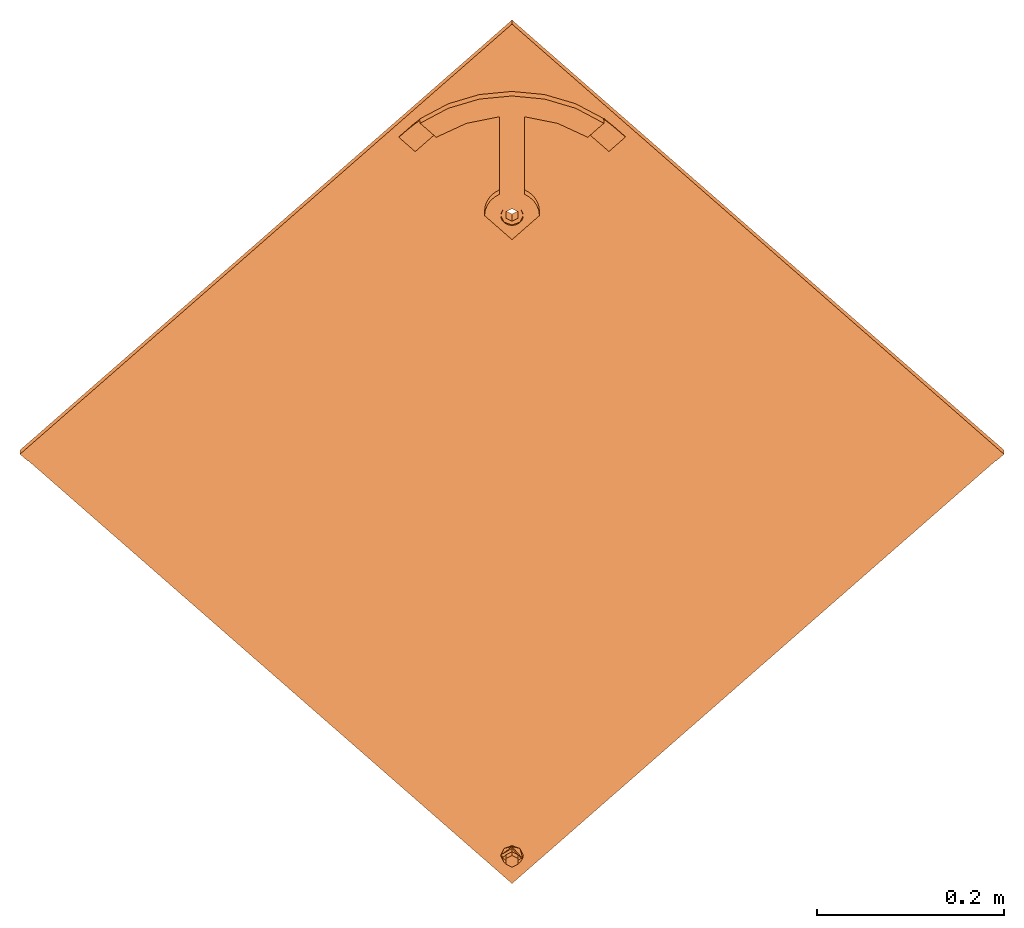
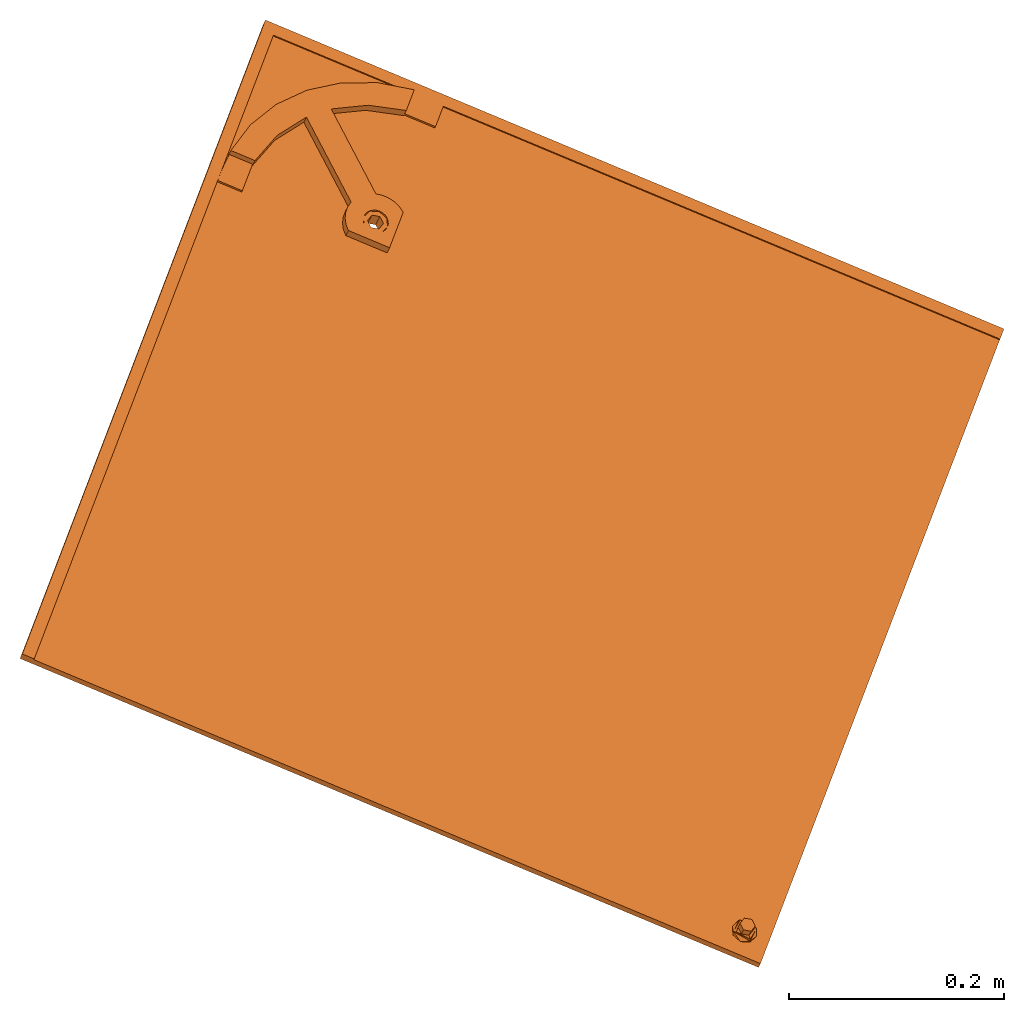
# One storey: 1 proxy.
"""IFC2X3 building model written with IfcOpenShell, lengths in millimetres."""

from ifc_helpers import new_model, entity, si_unit, converted_unit, derived_unit, direction, frame, origin, place, context, subcontext, project, spatial, faceted_brep, source, transform, mapped, material, material_list, type_object, type_shapes, element, save


model = new_model("IFC2X3")

# Units and contexts
model_context = context("Model", 3, precision=0.01, world=origin(), true_north=direction((6.12303176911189e-17, 1.0)))
body_context = subcontext(model_context, "Body", "Model", "MODEL_VIEW")
ifc_project = project(units=[si_unit("LENGTHUNIT", "METRE", prefix="MILLI"), si_unit("AREAUNIT", "SQUARE_METRE"), si_unit("VOLUMEUNIT", "CUBIC_METRE"), converted_unit("PLANEANGLEUNIT", "DEGREE", entity("IfcRatioMeasure", 0.0174532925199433), si_unit("PLANEANGLEUNIT", "RADIAN"), dimensions=[0, 0, 0, 0, 0, 0, 0]), si_unit("MASSUNIT", "GRAM", prefix="KILO"), derived_unit("MASSDENSITYUNIT", [(si_unit("MASSUNIT", "GRAM", prefix="KILO"), 1), (si_unit("LENGTHUNIT", "METRE"), -3)]), si_unit("TIMEUNIT", "SECOND"), si_unit("FREQUENCYUNIT", "HERTZ"), si_unit("THERMODYNAMICTEMPERATUREUNIT", "DEGREE_CELSIUS"), derived_unit("THERMALTRANSMITTANCEUNIT", [(si_unit("MASSUNIT", "GRAM", prefix="KILO"), 1), (si_unit("THERMODYNAMICTEMPERATUREUNIT", "KELVIN"), -1), (si_unit("TIMEUNIT", "SECOND"), -3)]), derived_unit("VOLUMETRICFLOWRATEUNIT", [(si_unit("LENGTHUNIT", "METRE"), 3), (si_unit("TIMEUNIT", "SECOND"), -1)]), si_unit("ELECTRICCURRENTUNIT", "AMPERE"), si_unit("ELECTRICVOLTAGEUNIT", "VOLT"), si_unit("POWERUNIT", "WATT"), si_unit("FORCEUNIT", "NEWTON", prefix="KILO"), si_unit("ILLUMINANCEUNIT", "LUX"), si_unit("LUMINOUSFLUXUNIT", "LUMEN"), si_unit("LUMINOUSINTENSITYUNIT", "CANDELA"), derived_unit("USERDEFINED", [(si_unit("MASSUNIT", "GRAM", prefix="KILO"), -1), (si_unit("LENGTHUNIT", "METRE"), -2), (si_unit("TIMEUNIT", "SECOND"), 3), (si_unit("LUMINOUSFLUXUNIT", "LUMEN"), 1)]), derived_unit("LINEARVELOCITYUNIT", [(si_unit("LENGTHUNIT", "METRE"), 1), (si_unit("TIMEUNIT", "SECOND"), -1)]), si_unit("PRESSUREUNIT", "PASCAL"), derived_unit("USERDEFINED", [(si_unit("LENGTHUNIT", "METRE"), -2), (si_unit("MASSUNIT", "GRAM", prefix="KILO"), 1), (si_unit("TIMEUNIT", "SECOND"), -2)])], contexts=[model_context])

# Site, building, storey
site_placement = place(None, origin())
site = spatial("IfcSite", under=ifc_project, at=site_placement, Name="Default", CompositionType="ELEMENT")
building_placement = place(site_placement, origin())
building = spatial("IfcBuilding", under=site, at=building_placement, CompositionType="ELEMENT")
storey_placement = place(building_placement, frame((0.0, 0.0, 2687.5)))
storey = spatial("IfcBuildingStorey", under=building, at=storey_placement, Name="Level 2", CompositionType="ELEMENT", Elevation=2687.5)

# Proxy
ifc_material_1 = material(Name="Rubber - Sunstyle - Black")
ifc_material_2 = material(Name="Glass - Sunstyle - Tainted Silver")
ifc_material_list_1 = material_list([ifc_material_1, ifc_material_2])
ifc_material_list_2 = material_list([ifc_material_1, ifc_material_2])
building_element_proxy_type = type_object("IfcBuildingElementProxyType", Name="Non PV Shingle - Silver", PredefinedType="NOTDEFINED", material=ifc_material_list_2)
shared_shape = source(origin(), body_context, "Body", "Brep", [
    faceted_brep([(0.0, -485.159313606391, 4.00636906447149), (-5.77420283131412, -488.492583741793, 4.062193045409), (-5.77420283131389, -488.124274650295, 26.0540623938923), (0.0, -484.791004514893, 25.9982384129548), (-5.77420283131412, -495.159124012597, 4.17384100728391), (-5.7742028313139, -494.790814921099, 26.1657103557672), (0.0, -498.492394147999, 4.2296649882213), (0.0, -498.1240850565, 26.2215343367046), (5.77420283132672, -495.159124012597, 4.17384100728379), (5.77420283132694, -494.790814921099, 26.1657103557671), (5.77420283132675, -488.492583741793, 4.06219304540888), (5.77420283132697, -488.124274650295, 26.0540623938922), (-8.60370416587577, -500.060042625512, 26.2539568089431), (0.0, -503.623313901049, 26.3136327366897), (-12.1674751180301, -491.457544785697, 26.1098863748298), (-8.60370416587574, -482.855046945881, 25.9658159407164), (0.0, -479.291775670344, 25.9061400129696), (8.60370416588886, -482.855046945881, 25.9658159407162), (12.1674751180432, -491.457544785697, 26.1098863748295), (8.60370416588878, -500.060042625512, 26.2539568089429), (-11.3242446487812, -489.162467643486, 28.4227283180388), (-9.75647455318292, -491.386529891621, 30.3502110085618), (0.0, -484.073454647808, 30.9829114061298), (0.0, -482.832957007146, 30.4025647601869), (0.0, -480.675406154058, 29.3931896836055), (0.0, -503.067269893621, 27.5886907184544), (0.0, -502.123693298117, 29.7523951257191), (0.0, -498.67431759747, 31.227439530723), (0.0, -479.804811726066, 27.19910242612), (-6.32324569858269, -495.024101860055, 31.1663074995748), (-6.32324569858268, -487.723670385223, 31.0440434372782), (11.3242446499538, -493.673887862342, 28.4982833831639), (9.84888015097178, -492.460936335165, 30.2713428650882), (6.32324569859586, -487.723670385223, 31.0440434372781), (6.32324569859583, -495.024101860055, 31.1663074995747), (-6.32324569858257, -494.890073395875, 39.1691956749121), (0.0, -498.54028913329, 39.2303277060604), (0.0, -491.239857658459, 39.1080636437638), (-6.32324569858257, -487.589641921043, 39.0469316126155), (6.32324569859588, -494.890073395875, 39.169195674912), (6.32324569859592, -487.589641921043, 39.0469316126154), (0.0, -483.939426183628, 38.9857995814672), (0.0, -491.825853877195, 4.11801702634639)], [[[0, 1, 2, 3]], [[1, 4, 5, 2]], [[4, 6, 7, 5]], [[6, 8, 9, 7]], [[8, 10, 11, 9]], [[10, 0, 3, 11]], [[12, 7, 13]], [[7, 12, 5]], [[14, 5, 12]], [[5, 14, 2]], [[15, 2, 14]], [[3, 2, 15]], [[15, 16, 3]], [[16, 17, 3]], [[11, 3, 17]], [[11, 17, 18]], [[9, 11, 18]], [[18, 19, 9]], [[7, 9, 19]], [[19, 13, 7]], [[20, 14, 12]], [[21, 22, 23, 24]], [[24, 20, 21]], [[25, 20, 12]], [[26, 27, 21]], [[15, 14, 20]], [[12, 13, 25]], [[20, 28, 15]], [[28, 20, 24]], [[21, 27, 29]], [[21, 29, 30]], [[26, 21, 20]], [[20, 25, 26]], [[15, 28, 16]], [[21, 30, 22]], [[31, 18, 17]], [[28, 31, 17]], [[32, 27, 26]], [[26, 31, 32]], [[26, 25, 31]], [[25, 19, 31]], [[17, 16, 28]], [[31, 19, 18]], [[24, 31, 28]], [[33, 34, 32]], [[23, 22, 33]], [[24, 32, 31]], [[27, 32, 34]], [[32, 23, 33]], [[19, 25, 13]], [[32, 24, 23]], [[35, 36, 37]], [[37, 38, 35]], [[36, 39, 37]], [[40, 37, 39]], [[37, 40, 41]], [[37, 41, 38]], [[42, 6, 4]], [[4, 1, 42]], [[1, 0, 42]], [[42, 8, 6]], [[0, 10, 42]], [[8, 42, 10]], [[22, 30, 38, 41]], [[30, 29, 35, 38]], [[29, 27, 36, 35]], [[27, 34, 39, 36]], [[34, 33, 40, 39]], [[33, 22, 41, 40]]]),
    faceted_brep([(0.0, 284.789208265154, 20.3195200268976), (0.0, 289.288576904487, 20.2441667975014), (-8.60370416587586, 288.352479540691, 20.259844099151), (8.60370416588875, 288.352479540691, 20.2598440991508), (6.64022859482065, 293.121777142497, 20.1799702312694), (12.1674751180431, 296.954977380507, 20.1157736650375), (6.64022859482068, 300.788177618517, 20.0515770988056), (8.60370416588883, 305.557475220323, 19.9717032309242), (0.0, 304.621377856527, 19.9873805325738), (0.0, 309.12074649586, 19.9120273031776), (-8.60370416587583, 305.557475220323, 19.9717032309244), (-6.64022859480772, 300.788177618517, 20.0515770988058), (-12.1674751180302, 296.954977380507, 20.1157736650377), (-6.64022859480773, 293.121777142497, 20.1799702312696), (-6.6402282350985, 300.520254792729, 4.05382046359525), (0.0, 304.35345482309, 3.9896239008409), (-6.64022823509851, 292.853854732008, 4.18221358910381), (0.0, 289.020654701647, 4.24641015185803), (6.64022823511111, 292.853854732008, 4.18221358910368), (6.64022823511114, 300.520254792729, 4.05382046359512), (-8.60370416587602, 288.084556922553, 4.26208746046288), (0.0, 284.521285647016, 4.32176338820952), (-12.1674751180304, 296.687054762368, 4.11801702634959), (-8.603704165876, 305.289552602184, 3.97394659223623), (0.0, 308.852823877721, 3.91427066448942), (8.60370416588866, 305.289552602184, 3.97394659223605), (12.167475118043, 296.687054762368, 4.11801702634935), (8.60370416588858, 288.084556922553, 4.26208746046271)], [[[0, 1, 2]], [[1, 0, 3]], [[3, 4, 1]], [[4, 3, 5]], [[6, 4, 5]], [[5, 7, 6]], [[7, 8, 6]], [[8, 7, 9]], [[8, 9, 10]], [[10, 11, 8]], [[12, 11, 10]], [[2, 13, 12]], [[12, 13, 11]], [[13, 2, 1]], [[8, 11, 14, 15]], [[11, 13, 16, 14]], [[13, 1, 17, 16]], [[1, 4, 18, 17]], [[4, 6, 19, 18]], [[6, 8, 15, 19]], [[20, 17, 21]], [[17, 20, 16]], [[22, 16, 20]], [[14, 16, 22]], [[23, 14, 22]], [[15, 14, 23]], [[23, 24, 15]], [[24, 25, 15]], [[19, 15, 25]], [[19, 25, 26]], [[26, 18, 19]], [[26, 27, 18]], [[17, 18, 27]], [[27, 21, 17]], [[24, 23, 10, 9]], [[10, 23, 22, 12]], [[20, 21, 0, 2]], [[20, 2, 12, 22]], [[21, 27, 3, 0]], [[3, 27, 26, 5]], [[25, 24, 9, 7]], [[25, 7, 5, 26]]]),
    faceted_brep([(518.347125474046, -8.50591218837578, 16.4460771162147), (526.831811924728, -0.0212257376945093, 16.3039797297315), (526.831811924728, 0.00389200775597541, 17.8037694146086), (518.347125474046, -8.48079444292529, 17.9458668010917), (0.000322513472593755, 509.695546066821, 7.76749207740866), (-518.346480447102, -8.50591218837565, 16.4460771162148), (-526.831166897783, -0.021225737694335, 16.3039797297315), (0.000322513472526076, 526.662539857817, 7.48333714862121), (0.000322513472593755, 526.687657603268, 8.98312683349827), (-526.831166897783, 0.00389200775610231, 17.8037694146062), (-518.346480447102, -8.48079444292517, 17.9458668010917), (0.000322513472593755, 509.720663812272, 9.26728176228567)], [[[0, 1, 2, 3]], [[1, 0, 4, 5, 6, 7]], [[2, 1, 7, 8]], [[3, 2, 8, 9, 10, 11]], [[0, 3, 11, 4]], [[5, 10, 9, 6]], [[8, 7, 6, 9]], [[4, 11, 10, 5]]]),
    faceted_brep([(0.000322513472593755, 526.662539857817, 7.48333714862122), (-3.10582854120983, 308.054627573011, 11.1444757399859), (0.0, 308.46346032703, 11.1376288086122), (-6.0, 306.855990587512, 11.1645499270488), (3.10582854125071, 308.054627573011, 11.1444757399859), (6.0, 306.855990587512, 11.1645499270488), (8.4852813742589, 304.949234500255, 11.1964833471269), (10.3923048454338, 302.464301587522, 11.2380997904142), (-8.48528137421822, 304.949234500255, 11.1964833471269), (-10.3923048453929, 302.464301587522, 11.2380997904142), (-11.5911099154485, 299.570535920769, 11.2865631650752), (-526.831166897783, -0.0212257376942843, 16.3039797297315), (11.5911099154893, 299.570535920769, 11.2865631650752), (526.831811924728, -0.021225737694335, 16.3039797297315), (-12.0, 296.465142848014, 11.3385707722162), (-11.5911099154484, 293.359749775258, 11.3905783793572), (-10.392304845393, 290.465984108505, 11.4390417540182), (-8.48528137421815, 287.981051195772, 11.4806581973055), (-6.0, 286.074295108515, 11.5125916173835), (-3.10582854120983, 284.875658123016, 11.5326658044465), (-2.07055236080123, -483.623303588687, 24.4031112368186), (-4.0, -484.422394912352, 24.4164940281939), (-5.65685424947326, -485.693565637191, 24.4377829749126), (-6.92820323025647, -487.350187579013, 24.4655272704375), (-7.72740661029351, -489.279364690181, 24.4978361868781), (-8.0, -491.349626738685, 24.5325079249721), (-7.72740661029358, -493.419888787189, 24.5671796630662), (0.000322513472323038, -526.704991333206, 25.1246223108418), (-6.92820323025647, -495.349065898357, 24.5994885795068), (-5.65685424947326, -497.005687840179, 24.6272328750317), (-4.0, -498.276858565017, 24.6485218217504), (-2.0705523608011, -499.075949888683, 24.6619046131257), (0.0, -499.348505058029, 24.6664692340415), (2.07055236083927, -499.075949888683, 24.6619046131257), (4.0, -498.276858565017, 24.6485218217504), (5.65685424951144, -497.005687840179, 24.6272328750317), (6.92820323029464, -495.349065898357, 24.5994885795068), (7.72740661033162, -493.419888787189, 24.5671796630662), (12.0, 296.465142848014, 11.3385707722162), (11.5911099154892, 293.359749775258, 11.3905783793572), (10.3923048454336, 290.465984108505, 11.4390417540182), (8.4852813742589, 287.981051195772, 11.4806581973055), (6.0, 286.074295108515, 11.5125916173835), (3.10582854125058, 284.875658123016, 11.5326658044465), (2.07055236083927, -483.623303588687, 24.4031112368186), (4.0, -484.422394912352, 24.4164940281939), (5.65685424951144, -485.69356563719, 24.4377829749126), (8.0, -491.349626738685, 24.5325079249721), (7.72740661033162, -489.279364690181, 24.4978361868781), (6.92820323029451, -487.350187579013, 24.4655272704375), (0.0, 284.466825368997, 11.5395127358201), (0.0, -483.350748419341, 24.3985466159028), (-526.831166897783, -0.146814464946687, 8.80503130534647), (-6.92820323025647, -487.475776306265, 16.9665788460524), (-7.72740661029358, -489.404953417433, 16.9988877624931), (-5.65685424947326, -485.819154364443, 16.9388345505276), (-8.0, -491.475215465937, 17.0335595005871), (-7.72740661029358, -493.545477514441, 17.0682312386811), (0.000322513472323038, -526.830580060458, 17.6256738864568), (-4.0, -484.547983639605, 16.9175456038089), (-2.07055236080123, -483.748892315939, 16.9041628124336), (-3.10582854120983, 284.750069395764, 4.03371738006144), (-6.0, 285.948706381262, 4.01364319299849), (-8.48528137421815, 287.85546246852, 3.98170977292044), (-10.392304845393, 290.340395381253, 3.94009332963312), (-11.5911099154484, 293.234161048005, 3.89162995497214), (-12.0, 296.339554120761, 3.83962234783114), (-11.5911099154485, 299.444947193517, 3.78761474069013), (0.000322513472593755, 526.536951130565, -0.0156112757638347), (-10.3923048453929, 302.338712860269, 3.73915136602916), (-8.48528137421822, 304.823645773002, 3.69753492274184), (-6.0, 306.73040186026, 3.66560150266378), (-3.10582854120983, 307.929038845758, 3.64552731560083), (0.0, 308.337871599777, 3.63868038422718), (3.10582854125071, 307.929038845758, 3.64552731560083), (6.0, 306.73040186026, 3.66560150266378), (8.4852813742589, 304.823645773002, 3.69753492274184), (10.3923048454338, 302.338712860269, 3.73915136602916), (11.5911099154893, 299.444947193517, 3.78761474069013), (526.831811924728, -0.146814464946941, 8.80503130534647), (7.72740661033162, -493.545477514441, 17.0682312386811), (8.0, -491.475215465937, 17.0335595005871), (7.72740661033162, -489.404953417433, 16.9988877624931), (6.92820323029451, -487.475776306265, 16.9665788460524), (5.65685424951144, -485.819154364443, 16.9388345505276), (4.0, -484.547983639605, 16.9175456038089), (2.07055236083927, -483.748892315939, 16.9041628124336), (3.10582854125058, 284.750069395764, 4.03371738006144), (6.0, 285.948706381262, 4.01364319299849), (12.0, 296.339554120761, 3.83962234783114), (11.5911099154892, 293.234161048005, 3.89162995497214), (10.3923048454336, 290.340395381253, 3.94009332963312), (8.4852813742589, 287.85546246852, 3.98170977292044), (0.0, 284.341236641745, 4.04056431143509), (0.0, -483.476337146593, 16.8995981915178), (-6.92820323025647, -495.474654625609, 17.1005401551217), (-5.65685424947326, -497.131276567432, 17.1282844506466), (-4.0, -498.40244729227, 17.1495733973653), (-2.0705523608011, -499.201538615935, 17.1629561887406), (0.0, -499.474093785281, 17.1675208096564), (2.07055236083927, -499.201538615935, 17.1629561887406), (4.0, -498.40244729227, 17.1495733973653), (5.65685424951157, -497.131276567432, 17.1282844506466), (6.92820323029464, -495.474654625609, 17.1005401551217)], [[[0, 1, 2]], [[1, 0, 3]], [[0, 2, 4]], [[4, 5, 0]], [[5, 6, 0]], [[0, 6, 7]], [[8, 3, 0]], [[9, 8, 0]], [[9, 0, 10]], [[10, 0, 11]], [[12, 0, 7]], [[12, 13, 0]], [[11, 14, 10]], [[14, 11, 15]], [[16, 15, 11]], [[16, 11, 17]], [[18, 17, 11]], [[11, 19, 18]], [[19, 11, 20]], [[21, 20, 11]], [[11, 22, 21]], [[22, 11, 23]], [[23, 11, 24]], [[25, 24, 11]], [[25, 11, 26]], [[26, 11, 27]], [[27, 28, 26]], [[29, 28, 27]], [[30, 29, 27]], [[31, 30, 27]], [[27, 32, 31]], [[32, 27, 33]], [[34, 33, 27]], [[34, 27, 35]], [[36, 35, 27]], [[37, 36, 27]], [[37, 27, 13]], [[12, 38, 13]], [[39, 13, 38]], [[13, 39, 40]], [[13, 40, 41]], [[41, 42, 13]], [[42, 43, 13]], [[13, 43, 44]], [[45, 13, 44]], [[46, 13, 45]], [[47, 37, 13]], [[48, 47, 13]], [[49, 48, 13]], [[46, 49, 13]], [[20, 50, 19]], [[51, 50, 20]], [[44, 50, 51]], [[43, 50, 44]], [[52, 53, 54]], [[53, 52, 55]], [[52, 54, 56]], [[56, 57, 52]], [[52, 57, 58]], [[59, 55, 52]], [[60, 59, 52]], [[60, 52, 61]], [[61, 52, 62]], [[63, 62, 52]], [[64, 63, 52]], [[65, 64, 52]], [[66, 65, 52]], [[66, 52, 67]], [[52, 68, 67]], [[69, 67, 68]], [[70, 69, 68]], [[68, 71, 70]], [[71, 68, 72]], [[72, 68, 73]], [[74, 73, 68]], [[74, 68, 75]], [[76, 75, 68]], [[68, 77, 76]], [[77, 68, 78]], [[68, 79, 78]], [[58, 80, 79]], [[81, 79, 80]], [[81, 82, 79]], [[82, 83, 79]], [[84, 79, 83]], [[79, 84, 85]], [[85, 86, 79]], [[87, 79, 86]], [[87, 88, 79]], [[89, 78, 79]], [[79, 90, 89]], [[90, 79, 91]], [[92, 91, 79]], [[92, 79, 88]], [[93, 60, 61]], [[93, 86, 94]], [[94, 60, 93]], [[87, 86, 93]], [[58, 57, 95]], [[96, 58, 95]], [[96, 97, 58]], [[97, 98, 58]], [[99, 58, 98]], [[58, 99, 100]], [[58, 100, 101]], [[101, 102, 58]], [[102, 103, 58]], [[103, 80, 58]], [[11, 0, 68, 52]], [[27, 11, 52, 58]], [[13, 27, 58, 79]], [[0, 13, 79, 68]], [[25, 56, 54, 24]], [[24, 54, 53, 23]], [[21, 22, 55, 59]], [[55, 22, 23, 53]], [[20, 21, 59, 60]], [[20, 60, 94, 51]], [[51, 94, 86, 44]], [[44, 86, 85, 45]], [[49, 46, 84, 83]], [[84, 46, 45, 85]], [[48, 49, 83, 82]], [[48, 82, 81, 47]], [[47, 81, 80, 37]], [[37, 80, 103, 36]], [[34, 35, 102, 101]], [[102, 35, 36, 103]], [[33, 34, 101, 100]], [[33, 100, 99, 32]], [[32, 99, 98, 31]], [[31, 98, 97, 30]], [[28, 29, 96, 95]], [[96, 29, 30, 97]], [[26, 28, 95, 57]], [[26, 57, 56, 25]], [[14, 66, 67, 10]], [[10, 67, 69, 9]], [[3, 8, 70, 71]], [[70, 8, 9, 69]], [[1, 3, 71, 72]], [[1, 72, 73, 2]], [[2, 73, 74, 4]], [[4, 74, 75, 5]], [[7, 6, 76, 77]], [[76, 6, 5, 75]], [[12, 7, 77, 78]], [[12, 78, 89, 38]], [[38, 89, 90, 39]], [[39, 90, 91, 40]], [[42, 41, 92, 88]], [[40, 91, 92, 41]], [[87, 43, 42, 88]], [[43, 87, 93, 50]], [[50, 93, 61, 19]], [[19, 61, 62, 18]], [[16, 17, 63, 64]], [[63, 17, 18, 62]], [[15, 16, 64, 65]], [[15, 65, 66, 14]]]),
    faceted_brep([(-103.640919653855, 371.082989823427, 12.5892580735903), (-81.5635806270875, 393.15723338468, 12.2195694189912), (-98.1147183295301, 409.705441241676, 11.9424281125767), (-106.2656930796, 403.014562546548, 12.0544836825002), (-113.962762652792, 395.806279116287, 12.1752044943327), (-121.16572423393, 388.605337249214, 12.295802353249), (121.446435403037, 388.886009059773, 12.2911017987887), (110.715435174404, 399.614000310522, 12.1114346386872), (104.744439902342, 405.287275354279, 12.0164213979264), (98.4920378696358, 410.648923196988, 11.9266271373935), (98.074476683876, 410.231479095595, 11.933618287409), (98.234751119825, 410.108922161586, 11.9356708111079), (98.3948723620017, 409.986165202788, 11.9377266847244), (81.6917048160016, 393.285339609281, 12.2174239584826), (103.769043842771, 371.211096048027, 12.5871126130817), (-23.2046504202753, 315.000563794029, 21.029550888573), (-8.48528137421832, 305.451589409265, 21.1894724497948), (-18.7041061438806, 319.633569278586, 20.951959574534), (-10.392304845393, 302.966656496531, 21.2310888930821), (-26.5842195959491, 309.496413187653, 21.1217317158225), (-11.5911099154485, 300.072890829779, 21.2795522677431), (-28.6795527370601, 303.387013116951, 21.2240489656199), (-12.0, 296.967497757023, 21.3315598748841), (-29.3894280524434, 296.967497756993, 21.3315598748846), (-11.5911099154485, 293.862104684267, 21.3835674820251), (-10.392304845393, 290.968339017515, 21.4320308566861), (-8.48528137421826, 288.483406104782, 21.4736472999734), (0.0, 267.58219039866, 21.8236906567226), (-6.0, 286.576650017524, 21.5055807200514), (-3.10582854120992, 285.378013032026, 21.5256549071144), (0.0, 284.969180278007, 21.532501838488), (3.10582854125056, 285.378013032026, 21.5256549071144), (6.0, 286.576650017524, 21.5055807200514), (8.48528137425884, 288.483406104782, 21.4736472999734), (29.389428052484, 296.967497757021, 21.3315598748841), (10.3923048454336, 290.968339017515, 21.4320308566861), (11.5911099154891, 293.862104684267, 21.3835674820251), (12.0, 296.967497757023, 21.3315598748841), (28.6795527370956, 303.387013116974, 21.2240489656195), (11.5911099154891, 300.072890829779, 21.2795522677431), (26.5842195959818, 309.49641318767, 21.1217317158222), (10.3923048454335, 302.966656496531, 21.2310888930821), (23.2046504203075, 315.000563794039, 21.0295508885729), (8.48528137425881, 305.451589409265, 21.1894724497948), (18.7041061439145, 319.633569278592, 20.9519595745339), (6.0, 307.358345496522, 21.1575390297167), (13.3000000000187, 323.171617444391, 20.8927060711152), (3.10582854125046, 308.55698248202, 21.1374648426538), (0.0, 308.965815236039, 21.1306179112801), (-13.2999999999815, 323.171617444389, 20.8927060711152), (-13.2999999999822, 418.050603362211, 19.3037191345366), (13.3000000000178, 418.050603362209, 19.3037191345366), (0.0, 443.522216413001, 18.8771329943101), (34.9852699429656, 439.689674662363, 18.9413185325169), (48.8881158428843, 409.917561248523, 19.4399273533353), (68.3106161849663, 428.373889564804, 19.1308297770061), (81.1868897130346, 392.906184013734, 19.7248255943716), (98.3948723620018, 410.11175393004, 19.4366751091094), (-34.9852699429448, 439.689674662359, 18.941318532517), (-48.8881158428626, 409.917561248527, 19.4399273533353), (-68.3106161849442, 428.373889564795, 19.1308297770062), (-81.1868897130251, 392.906184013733, 19.7248255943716), (-98.3948723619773, 410.111753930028, 19.4366751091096), (-6.0, 307.358345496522, 21.1575390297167), (-3.10582854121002, 308.55698248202, 21.1374648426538), (0.0, 267.414738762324, 11.8250927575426), (0.0, 284.80172864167, 11.533903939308), (3.10582854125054, 285.210561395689, 11.5270570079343), (-3.10582854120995, 285.210561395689, 11.5270570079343), (6.0, 286.409198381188, 11.5069828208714), (8.48528137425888, 288.315954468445, 11.4750494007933), (29.389428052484, 296.800046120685, 11.332961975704), (-6.0, 286.409198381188, 11.5069828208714), (-8.48528137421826, 288.315954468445, 11.4750494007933), (-29.3894280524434, 296.800046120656, 11.3329619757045), (-10.392304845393, 290.800887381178, 11.433432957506), (-11.5911099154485, 293.694653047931, 11.384969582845), (-12.0, 296.800046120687, 11.332961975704), (-28.6795527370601, 303.219561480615, 11.2254510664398), (-11.5911099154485, 299.905439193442, 11.280954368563), (-26.5842195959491, 309.328961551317, 11.1231338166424), (-10.392304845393, 302.799204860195, 11.232490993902), (-23.2046504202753, 314.833112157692, 11.030952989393), (-8.48528137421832, 305.284137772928, 11.1908745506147), (-18.7041061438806, 319.466117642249, 10.9533616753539), (-6.0, 307.190893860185, 11.1589411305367), (-13.2999999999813, 323.004165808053, 10.8941081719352), (-3.10582854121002, 308.389530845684, 11.1388669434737), (0.0, 308.798363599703, 11.1320200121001), (13.3000000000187, 323.004165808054, 10.8941081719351), (13.3000000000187, 417.883151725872, 9.30512123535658), (-13.2999999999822, 417.883151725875, 9.30512123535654), (-0.199443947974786, 443.35464169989, 8.87853715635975), (-35.1150635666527, 439.493384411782, 8.94320360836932), (-48.8881158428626, 409.75010961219, 9.44132945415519), (-68.3708539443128, 428.178324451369, 9.13270270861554), (-81.5627248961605, 393.11622608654, 9.71990561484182), (-81.1868897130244, 392.738732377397, 9.72622769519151), (-98.1143736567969, 409.663842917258, 9.44277420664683), (-106.2656930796, 402.972699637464, 9.5548342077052), (-103.640919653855, 371.041126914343, 10.0896085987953), (-113.962762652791, 395.764416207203, 9.67555501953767), (-121.16572423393, 388.56347434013, 9.79615287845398), (-98.3948723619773, 409.944302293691, 9.43807720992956), (34.7256001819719, 439.579582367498, 8.94176000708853), (48.8881158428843, 409.750109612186, 9.44132945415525), (68.0092206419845, 428.346649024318, 9.12988369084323), (81.6917048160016, 393.243476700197, 9.71777448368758), (98.0744766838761, 410.189616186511, 9.43396881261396), (104.744439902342, 405.245412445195, 9.51677192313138), (98.4920378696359, 410.607060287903, 9.42697766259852), (110.715435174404, 399.572137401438, 9.61178516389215), (103.769043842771, 371.169233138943, 10.0874631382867), (121.446435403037, 388.844146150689, 9.7914523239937), (81.1868897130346, 392.738732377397, 9.7262276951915), (3.10582854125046, 308.389530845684, 11.1388669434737), (6.0, 307.190893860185, 11.1589411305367), (18.7041061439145, 319.466117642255, 10.9533616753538), (8.48528137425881, 305.284137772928, 11.1908745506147), (23.2046504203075, 314.833112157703, 11.0309529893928), (10.3923048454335, 302.799204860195, 11.232490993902), (26.5842195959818, 309.328961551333, 11.1231338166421), (11.5911099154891, 299.905439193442, 11.280954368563), (28.6795527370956, 303.219561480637, 11.2254510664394), (12.0, 296.800046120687, 11.332961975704), (10.3923048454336, 290.800887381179, 11.433432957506), (11.5911099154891, 293.694653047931, 11.384969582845)], [[[0, 1, 2, 3, 4, 5]], [[6, 7, 8, 9, 10, 11, 12, 13, 14]], [[15, 16, 17]], [[18, 16, 15]], [[19, 18, 15]], [[20, 18, 19]], [[19, 21, 20]], [[21, 22, 20]], [[22, 21, 23]], [[24, 22, 23]], [[25, 24, 23]], [[25, 23, 26]], [[23, 27, 26]], [[28, 26, 27]], [[28, 27, 29]], [[27, 30, 29]], [[30, 27, 31]], [[31, 27, 32]], [[33, 32, 27]], [[33, 27, 34]], [[34, 35, 33]], [[36, 35, 34]], [[37, 36, 34]], [[34, 38, 37]], [[39, 37, 38]], [[38, 40, 39]], [[40, 41, 39]], [[41, 40, 42]], [[43, 41, 42]], [[42, 44, 43]], [[45, 43, 44]], [[44, 46, 45]], [[45, 46, 47]], [[47, 46, 48]], [[46, 49, 48]], [[46, 50, 49]], [[46, 51, 50]], [[52, 50, 51]], [[51, 53, 52]], [[51, 54, 53]], [[53, 54, 55]], [[54, 56, 55]], [[56, 57, 55]], [[58, 50, 52]], [[50, 58, 59]], [[60, 59, 58]], [[60, 61, 59]], [[61, 60, 62]], [[63, 49, 17]], [[63, 64, 49]], [[49, 64, 48]], [[63, 17, 16]], [[65, 66, 67]], [[66, 65, 68]], [[65, 67, 69]], [[69, 70, 65]], [[65, 70, 71]], [[72, 68, 65]], [[72, 65, 73]], [[73, 65, 74]], [[74, 75, 73]], [[75, 74, 76]], [[76, 74, 77]], [[78, 77, 74]], [[79, 77, 78]], [[78, 80, 79]], [[79, 80, 81]], [[80, 82, 81]], [[83, 81, 82]], [[84, 83, 82]], [[84, 85, 83]], [[86, 85, 84]], [[86, 87, 85]], [[88, 87, 86]], [[89, 88, 86]], [[89, 86, 90]], [[91, 90, 86]], [[91, 92, 90]], [[92, 91, 93]], [[94, 93, 91]], [[93, 94, 95]], [[94, 96, 95]], [[94, 97, 96]], [[98, 95, 96]], [[99, 98, 96]], [[96, 100, 99]], [[99, 100, 101]], [[102, 101, 100]], [[95, 98, 103]], [[104, 90, 92]], [[90, 104, 105]], [[106, 105, 104]], [[107, 105, 106]], [[106, 108, 107]], [[108, 109, 107]], [[109, 108, 110]], [[111, 107, 109]], [[111, 112, 107]], [[113, 112, 111]], [[107, 114, 105]], [[115, 88, 89]], [[116, 115, 89]], [[116, 89, 117]], [[117, 118, 116]], [[119, 118, 117]], [[119, 120, 118]], [[119, 121, 120]], [[121, 122, 120]], [[122, 121, 123]], [[71, 124, 123]], [[124, 122, 123]], [[71, 70, 125]], [[125, 126, 71]], [[126, 124, 71]], [[49, 50, 91, 86]], [[17, 49, 86, 84]], [[15, 17, 84, 82]], [[82, 80, 19, 15]], [[21, 19, 80, 78]], [[23, 21, 78, 74]], [[27, 23, 74, 65]], [[0, 5, 102, 100]], [[34, 27, 65, 71]], [[6, 14, 112, 113]], [[38, 34, 71, 123]], [[40, 38, 123, 121]], [[121, 119, 42, 40]], [[44, 42, 119, 117]], [[46, 44, 117, 89]], [[51, 46, 89, 90]], [[11, 10, 57]], [[108, 106, 10]], [[10, 106, 55]], [[12, 11, 57]], [[57, 10, 55]], [[106, 53, 55]], [[106, 104, 53]], [[52, 104, 92]], [[92, 93, 58]], [[95, 60, 93]], [[52, 92, 58]], [[95, 62, 60]], [[60, 58, 93]], [[62, 95, 103]], [[104, 52, 53]], [[22, 77, 79, 20]], [[20, 79, 81, 18]], [[63, 16, 83, 85]], [[81, 83, 16, 18]], [[64, 63, 85, 87]], [[88, 48, 64, 87]], [[47, 115, 116, 45]], [[45, 116, 118, 43]], [[39, 41, 120, 122]], [[118, 120, 41, 43]], [[37, 39, 122, 124]], [[47, 48, 88, 115]], [[37, 124, 126, 36]], [[36, 126, 125, 35]], [[32, 33, 70, 69]], [[125, 70, 33, 35]], [[31, 32, 69, 67]], [[66, 30, 31, 67]], [[29, 68, 72, 28]], [[28, 72, 73, 26]], [[24, 25, 75, 76]], [[73, 75, 25, 26]], [[22, 24, 76, 77]], [[29, 30, 66, 68]], [[7, 6, 113, 111]], [[7, 111, 109, 8]], [[109, 110, 9, 8]], [[14, 13, 107, 112]], [[1, 0, 100, 96]], [[2, 98, 3]], [[3, 98, 99]], [[99, 101, 4, 3]], [[5, 4, 101, 102]], [[97, 94, 59, 61]], [[91, 50, 59, 94]], [[90, 105, 54, 51]], [[114, 56, 54, 105]], [[10, 9, 110, 108]], [[62, 2, 1]], [[2, 62, 103]], [[61, 62, 1, 97]], [[103, 98, 2]], [[96, 97, 1]], [[57, 56, 114, 107, 13, 12]]]),
])
type_shapes(building_element_proxy_type, [shared_shape])
proxy_placement = place(storey_placement, frame((-61887.8645932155, 574.832632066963, 730.62191443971), z_axis=(0.0, -0.499999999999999, 0.866025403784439), x_axis=(1.0, 0.0, 0.0)))
element("IfcBuildingElementProxy", 1, at=proxy_placement, inside=storey, type_object=building_element_proxy_type, material=ifc_material_list_1, Name="Roofing_Panels_SunStyle_Tile_Non-PV-Shingle:Non PV Shingle - Silver", ObjectType="Roofing_Panels_SunStyle_Tile_Non-PV-Shingle:Non PV Shingle - Silver", context=body_context, shape_type="MappedRepresentation", body=[
    mapped(shared_shape, transform((0.0, 0.0, 0.0), scale=1.0)),
])

save(model, "model.ifc")
